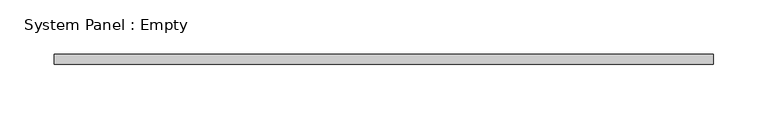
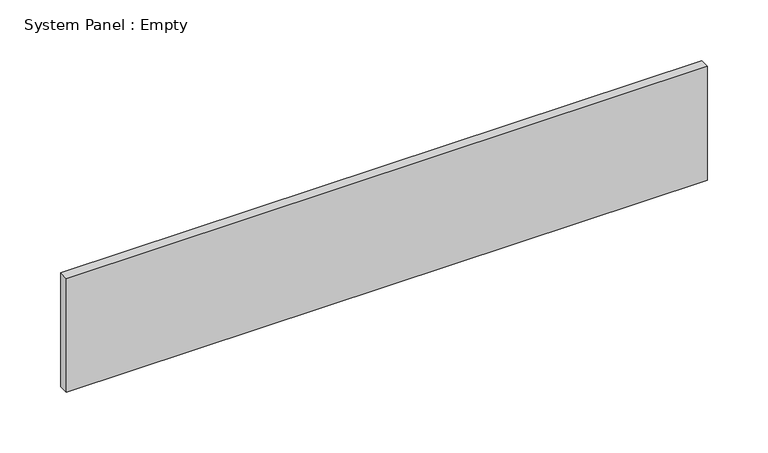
"""IFC4 building model written with IfcOpenShell, lengths in millimetres: plate geometry, System Panel : Empty."""

from ifc_helpers import new_model, si_unit, origin, origin_with_axes, place, context, project, spatial, polyline, outline, extrude, source, transform, mapped, element, save


def system_panel_empty_9ec88690(model_context):
    return source(origin(), model_context, "Body", "SweptSolid", [
        extrude(outline(polyline([(304.8000002, -4.7625), (-304.8000002, -4.7625), (-304.8000002, 4.7625), (304.8000002, 4.7625), (304.8000002, -4.7625)])), origin_with_axes(), (0.0, 0.0, 1.0), 114.3),
    ])


if __name__ == "__main__":
    model = new_model("IFC4")
    model_context = context("Model", 3, world=origin())
    ifc_project = project(units=[si_unit("LENGTHUNIT", "METRE", prefix="MILLI")], contexts=[model_context])
    site = spatial("IfcSite", under=ifc_project)
    building = spatial("IfcBuilding", under=site)
    placement = place(None, origin())
    system_panel_empty_shape = system_panel_empty_9ec88690(model_context)
    element("IfcPlate", 1, ObjectType="System Panel : Empty", at=placement, inside=building, context=model_context, shape_type="MappedRepresentation", body=[
        mapped(system_panel_empty_shape, transform((0.0, 0.0, 0.0), x_axis=(1.0, 0.0, 0.0), y_axis=(0.0, 1.0, 0.0), z_axis=(0.0, 0.0, 1.0))),
    ])
    save(model, "model.ifc")
